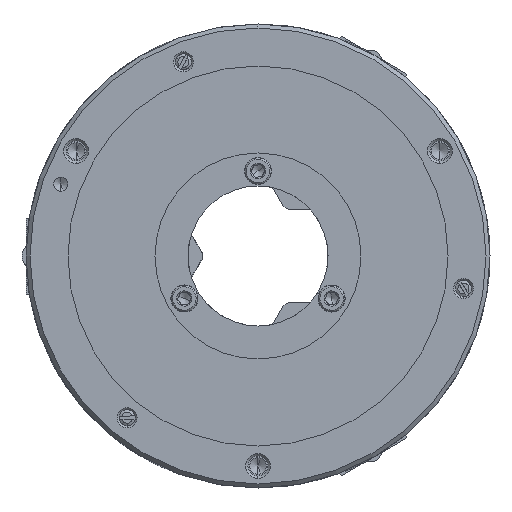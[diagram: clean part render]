
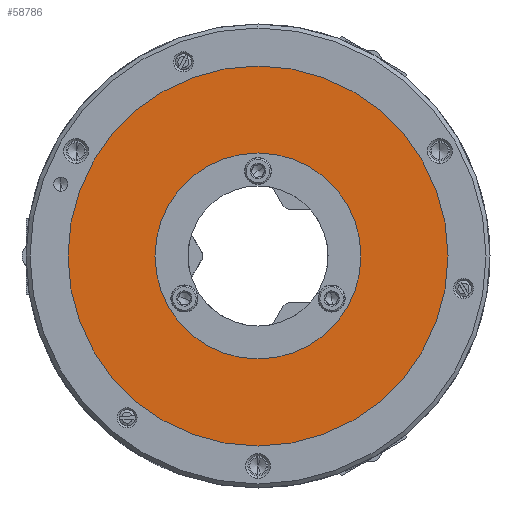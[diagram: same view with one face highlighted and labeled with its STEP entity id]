
A CAD part, left-side view. The second image highlights one B-rep face of the part: STEP entity #58786.
In plain terms, the highlighted planar face has unit normal (-1, 0, 0).
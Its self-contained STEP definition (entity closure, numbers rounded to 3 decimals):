
#900 = CARTESIAN_POINT ( 'NONE',  ( -78., 47.5, -82.272 ) ) ;
#2323 = CARTESIAN_POINT ( 'NONE',  ( -78., 0., 0. ) ) ;
#2856 = DIRECTION ( 'NONE',  ( 0., 0., -1. ) ) ;
#3038 = DIRECTION ( 'NONE',  ( 1., 0., 0. ) ) ;
#5076 = ORIENTED_EDGE ( 'NONE', *, *, #27551, .F. ) ;
#5766 = DIRECTION ( 'NONE',  ( 0., 0., -1. ) ) ;
#6386 = EDGE_LOOP ( 'NONE', ( #39488, #64224 ) ) ;
#6754 = FACE_OUTER_BOUND ( 'NONE', #30525, .T. ) ;
#10444 = EDGE_CURVE ( 'NONE', #47395, #36047, #53788, .T. ) ;
#11301 = CARTESIAN_POINT ( 'NONE',  ( -78., 0., 0. ) ) ;
#11327 = CIRCLE ( 'NONE', #24173, 51.5 ) ;
#14094 = DIRECTION ( 'NONE',  ( 0., 0., -1. ) ) ;
#16474 = AXIS2_PLACEMENT_3D ( 'NONE', #900, #51601, #57109 ) ;
#19806 = CARTESIAN_POINT ( 'NONE',  ( -78., 0., -95. ) ) ;
#20809 = EDGE_CURVE ( 'NONE', #61923, #60062, #51947, .T. ) ;
#22273 = EDGE_CURVE ( 'NONE', #60062, #61923, #11327, .T. ) ;
#24173 = AXIS2_PLACEMENT_3D ( 'NONE', #31033, #52860, #2856 ) ;
#26863 = CARTESIAN_POINT ( 'NONE',  ( -78., 0., 51.5 ) ) ;
#27551 = EDGE_CURVE ( 'NONE', #36047, #47395, #70090, .T. ) ;
#27598 = CARTESIAN_POINT ( 'NONE',  ( -78., 0., -51.5 ) ) ;
#28606 = CARTESIAN_POINT ( 'NONE',  ( -78., 0., 95. ) ) ;
#30525 = EDGE_LOOP ( 'NONE', ( #31741, #5076 ) ) ;
#31033 = CARTESIAN_POINT ( 'NONE',  ( -78., 0., 0. ) ) ;
#31741 = ORIENTED_EDGE ( 'NONE', *, *, #10444, .F. ) ;
#33219 = DIRECTION ( 'NONE',  ( 1., 0., 0. ) ) ;
#33582 = DIRECTION ( 'NONE',  ( 0., 0., -1. ) ) ;
#36047 = VERTEX_POINT ( 'NONE', #28606 ) ;
#39488 = ORIENTED_EDGE ( 'NONE', *, *, #20809, .T. ) ;
#47395 = VERTEX_POINT ( 'NONE', #19806 ) ;
#50610 = DIRECTION ( 'NONE',  ( 1., 0., 0. ) ) ;
#51601 = DIRECTION ( 'NONE',  ( -1., 0., 0. ) ) ;
#51947 = CIRCLE ( 'NONE', #62432, 51.5 ) ;
#52860 = DIRECTION ( 'NONE',  ( 1., 0., 0. ) ) ;
#53788 = CIRCLE ( 'NONE', #68915, 95. ) ;
#57109 = DIRECTION ( 'NONE',  ( 0., 0., 1. ) ) ;
#58786 = ADVANCED_FACE ( 'NONE', ( #62895, #6754 ), #68372, .T. ) ;
#60062 = VERTEX_POINT ( 'NONE', #26863 ) ;
#61923 = VERTEX_POINT ( 'NONE', #27598 ) ;
#62432 = AXIS2_PLACEMENT_3D ( 'NONE', #11301, #33219, #33582 ) ;
#62895 = FACE_BOUND ( 'NONE', #6386, .T. ) ;
#64224 = ORIENTED_EDGE ( 'NONE', *, *, #22273, .T. ) ;
#64967 = CARTESIAN_POINT ( 'NONE',  ( -78., 0., 0. ) ) ;
#66629 = AXIS2_PLACEMENT_3D ( 'NONE', #64967, #50610, #5766 ) ;
#68372 = PLANE ( 'NONE',  #16474 ) ;
#68915 = AXIS2_PLACEMENT_3D ( 'NONE', #2323, #3038, #14094 ) ;
#70090 = CIRCLE ( 'NONE', #66629, 95. ) ;
